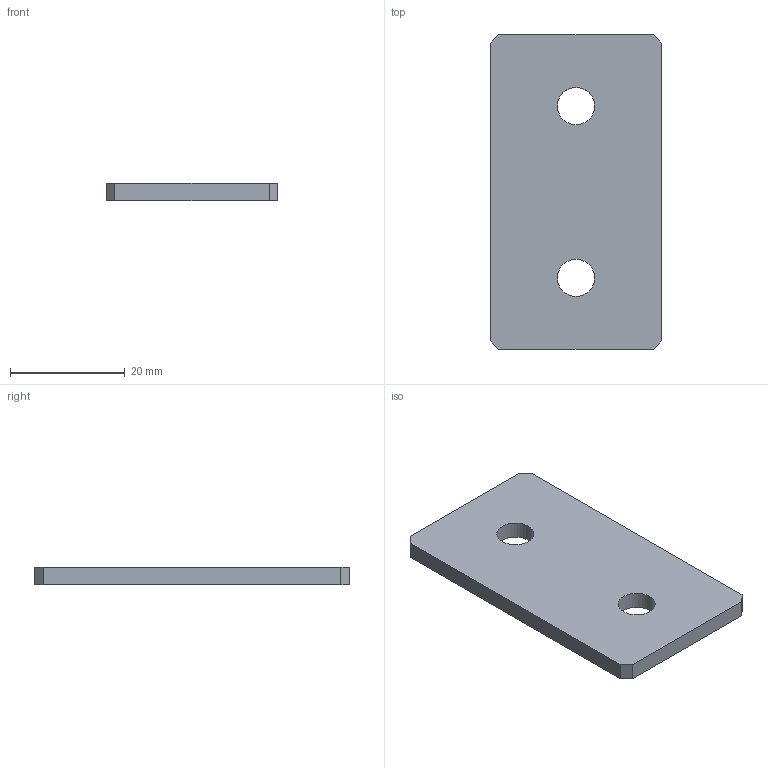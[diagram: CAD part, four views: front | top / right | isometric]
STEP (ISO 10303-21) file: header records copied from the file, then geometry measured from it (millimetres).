
FILE_DESCRIPTION (( 'STEP AP214' ), '1' );
FILE_NAME ('N20751.step', '2024-12-03T16:26:17', ( '' ), ( '' ), 'SwSTEP 2.0', 'SolidWorks 2023', '' );
FILE_SCHEMA (( 'AUTOMOTIVE_DESIGN' ));
Length unit declared in the file: millimetre
Products named in the file (1): N20751
Bounding box: 30 x 55 x 3 mm (x, y, z)
Volume: 4737.4 mm3; surface area: 3780.2 mm2
Topology: 1 solids, 1 shells, 12 faces, 30 edges, 20 vertices
Faces by surface type: plane 10, cylinder 2
Full cylindrical faces by diameter (mm): 6.5 x2
Entity records: 379 total; most frequent: CARTESIAN_POINT 61, DIRECTION 58, ORIENTED_EDGE 56, EDGE_CURVE 28, LINE 24, VECTOR 24, VERTEX_POINT 20, EDGE_LOOP 18
